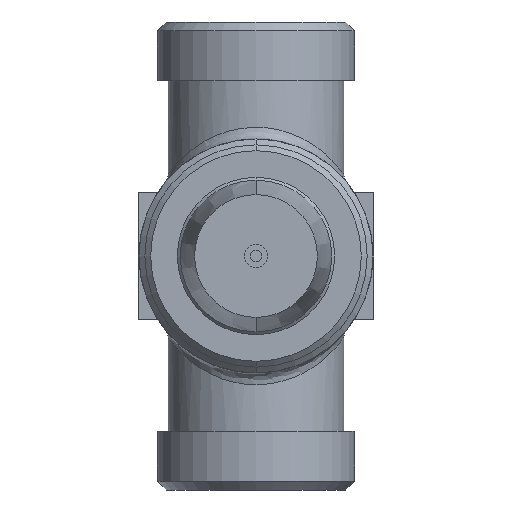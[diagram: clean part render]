
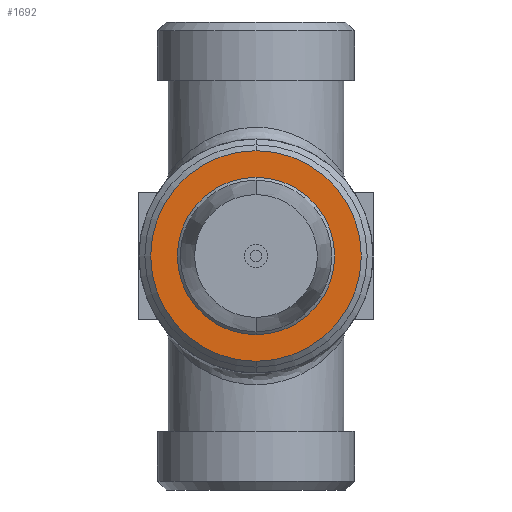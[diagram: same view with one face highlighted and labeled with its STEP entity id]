
A CAD part, front view. The second image highlights one B-rep face of the part: STEP entity #1692.
In plain terms, the highlighted planar face has unit normal (0, -1, 0).
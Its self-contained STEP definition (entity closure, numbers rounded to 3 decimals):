
#1614=CARTESIAN_POINT('',(0.,-26.,58.0));
#1615=VERTEX_POINT('',#1614);
#1622=CARTESIAN_POINT('',(0.0,-26.0,22.0));
#1623=VERTEX_POINT('',#1622);
#1624=CARTESIAN_POINT('',(0.0,-26.0,40.0));
#1625=DIRECTION('',(0.0,1.0,0.0));
#1626=DIRECTION('',(0.0,0.0,1.0));
#1627=AXIS2_PLACEMENT_3D('',#1624,#1625,#1626);
#1628=CIRCLE('',#1627,18.0);
#1629=EDGE_CURVE('',#1615,#1623,#1628,.T.);
#1655=CARTESIAN_POINT('',(0.0,-26.0,40.0));
#1656=DIRECTION('',(0.0,1.0,0.0));
#1657=DIRECTION('',(0.0,0.0,1.0));
#1658=AXIS2_PLACEMENT_3D('',#1655,#1656,#1657);
#1659=CIRCLE('',#1658,18.0);
#1660=EDGE_CURVE('',#1623,#1615,#1659,.T.);
#1683=CARTESIAN_POINT('',(0.0,-26.0,40.0));
#1684=DIRECTION('',(0.0,-1.0,0.0));
#1685=DIRECTION('',(0.0,0.0,1.0));
#1686=AXIS2_PLACEMENT_3D('',#1683,#1684,#1685);
#1687=PLANE('',#1686);
#1688=ORIENTED_EDGE('',*,*,#1660,.F.);
#1689=ORIENTED_EDGE('',*,*,#1629,.F.);
#1690=EDGE_LOOP('',(#1688,#1689));
#1691=FACE_OUTER_BOUND('',#1690,.T.);
#1692=ADVANCED_FACE('',(#1691),#1687,.T.);
